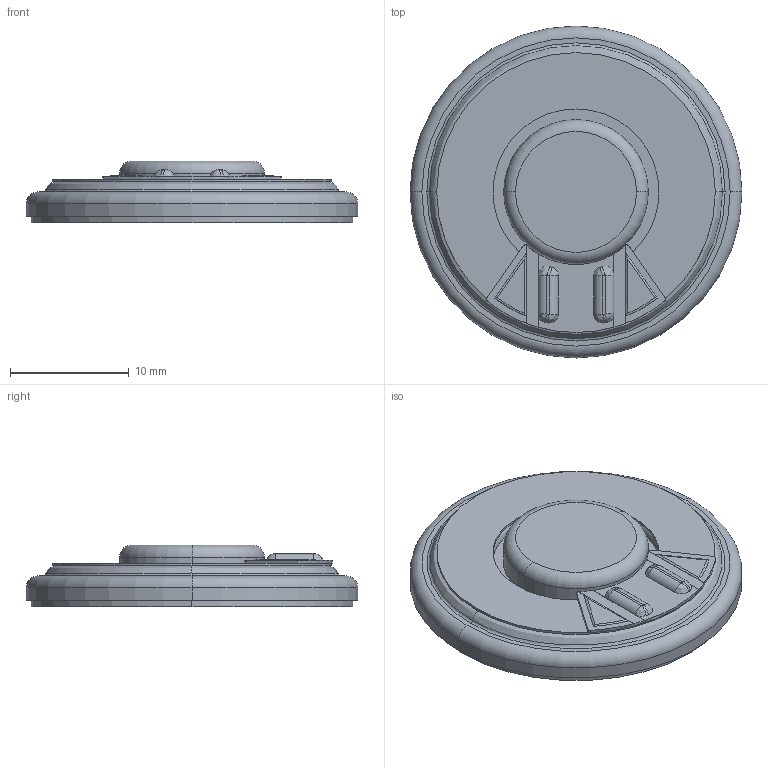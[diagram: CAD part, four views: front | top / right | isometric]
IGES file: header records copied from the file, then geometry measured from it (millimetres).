
Global section: file name: No Iges File Name specified; native system: AutoDesk Inventor R12.0; preprocessor: AutoDesk Inventor Iges Exporter R12.0; author: No Author specified; organization: No Organization specified; date: 20080125.141547; units: millimetre
Bounding box: 28 x 28 x 5.2 mm (x, y, z)
Volume: 725 mm3; surface area: 3508.1 mm2
Topology: 2 solids, 2 shells, 157 faces, 350 edges, 223 vertices
Faces by surface type: revolution 51, plane 51, bspline 34, cylinder 15, torus 6
